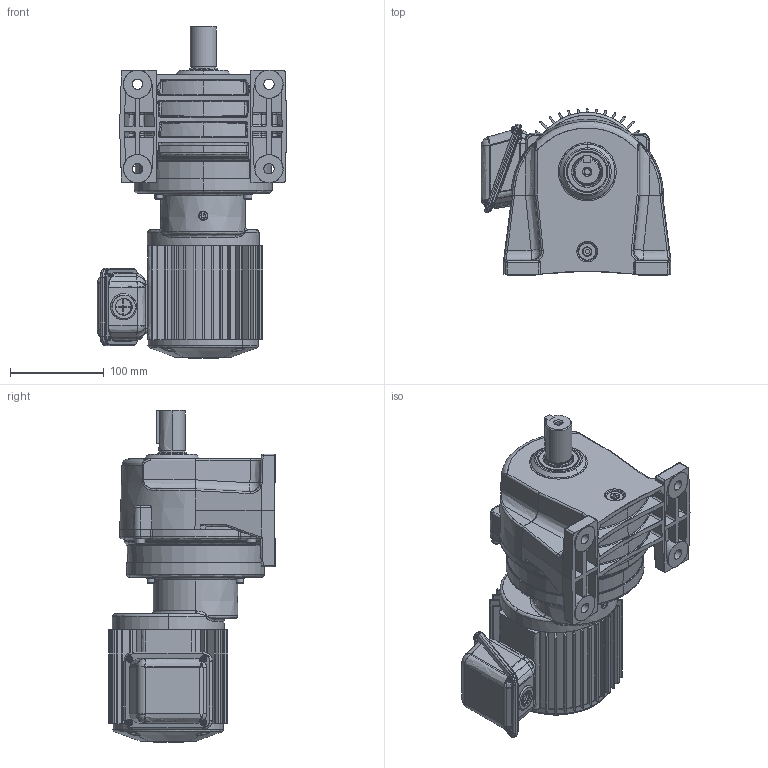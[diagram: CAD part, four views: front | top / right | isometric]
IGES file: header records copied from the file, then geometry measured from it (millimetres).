
Start section: SolidWorks IGES file using analytic representation for surfaces
Global section: file name: \\100.100.100.8\1_共有作業フォルダ\1-5_３Ｄデータ\solidworks\personal-folder\H.Nagayama\SGP1外形\P1(3D)\igs\TML2-01-(300~450).IGS; native system: SolidWorks 2018; preprocessor: SolidWorks 2018; author: sigma-giken; date: 200512.113546; units: millimetre
Bounding box: 202.13 x 177.5 x 353.5 mm (x, y, z)
Surface area: 459661.7 mm2 (no closed solid volume)
Topology: 0 solids, 0 shells, 1682 faces, 20554 edges, 20509 vertices
Faces by surface type: bspline 922, revolution 760
